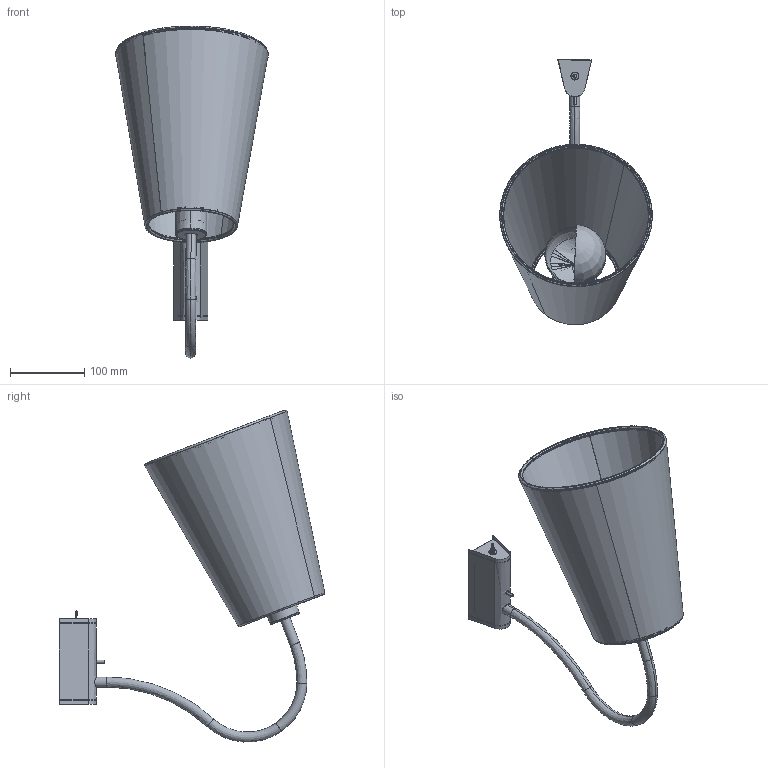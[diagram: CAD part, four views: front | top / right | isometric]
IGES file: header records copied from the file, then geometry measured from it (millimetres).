
Start section: SolidWorks IGES file using analytic representation for surfaces
Global section: file name: E:\3D lampy\Flex shade\Flex shade_9758,9764.IGS; native system: SolidWorks 2016; preprocessor: SolidWorks 2016; author: Asia; date: 170623.130211; units: millimetre
Bounding box: 205 x 356.94 x 446.44 mm (x, y, z)
Surface area: 440957 mm2 (no closed solid volume)
Topology: 0 solids, 0 shells, 453 faces, 7410 edges, 7405 vertices
Faces by surface type: revolution 244, bspline 209
